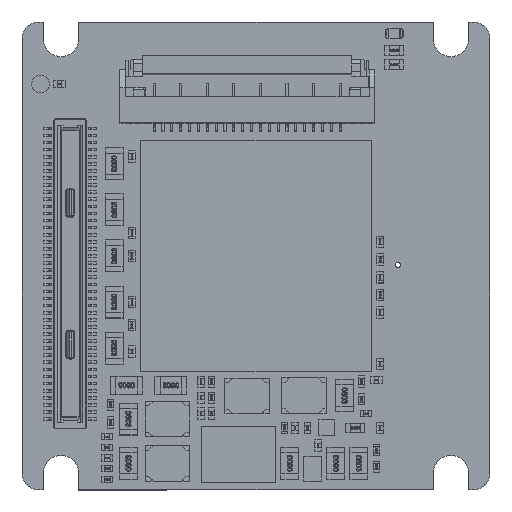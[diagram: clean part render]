
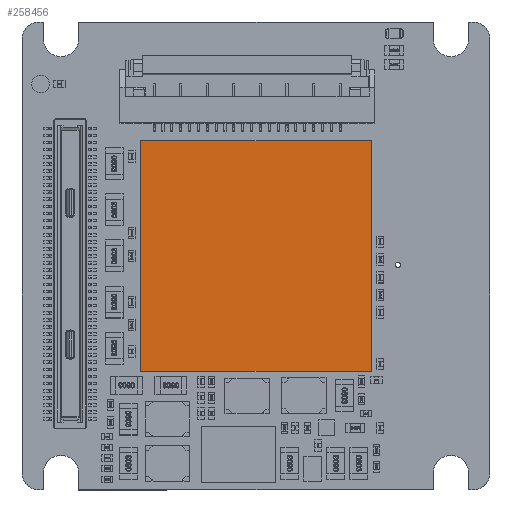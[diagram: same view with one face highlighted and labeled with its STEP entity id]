
A CAD part, top view. The second image highlights one B-rep face of the part: STEP entity #258456.
In plain terms, the highlighted planar face has unit normal (0, 0, 1).
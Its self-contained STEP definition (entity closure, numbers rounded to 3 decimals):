
#15020 = VECTOR ( 'NONE', #447345, 1000. ) ;
#17415 = ORIENTED_EDGE ( 'NONE', *, *, #482715, .F. ) ;
#30848 = LINE ( 'NONE', #337619, #83946 ) ;
#33694 = CARTESIAN_POINT ( 'NONE',  ( -6.5, -6.5, 6.172 ) ) ;
#52470 = CARTESIAN_POINT ( 'NONE',  ( 6.5, -6.5, 6.172 ) ) ;
#73066 = PLANE ( 'NONE',  #113791 ) ;
#79976 = EDGE_CURVE ( 'NONE', #237579, #127674, #396788, .T. ) ;
#83946 = VECTOR ( 'NONE', #490686, 1000. ) ;
#98268 = LINE ( 'NONE', #133552, #15020 ) ;
#105833 = EDGE_CURVE ( 'NONE', #127674, #288674, #30848, .T. ) ;
#108386 = CARTESIAN_POINT ( 'NONE',  ( 0., 0., 6.172 ) ) ;
#113791 = AXIS2_PLACEMENT_3D ( 'NONE', #108386, #424823, #455042 ) ;
#127674 = VERTEX_POINT ( 'NONE', #33694 ) ;
#133552 = CARTESIAN_POINT ( 'NONE',  ( -6.5, 6.5, 6.172 ) ) ;
#140174 = VECTOR ( 'NONE', #155732, 1000. ) ;
#155732 = DIRECTION ( 'NONE',  ( -1., 0., 0. ) ) ;
#191237 = VERTEX_POINT ( 'NONE', #271329 ) ;
#237579 = VERTEX_POINT ( 'NONE', #455095 ) ;
#258456 = ADVANCED_FACE ( 'NONE', ( #460017 ), #73066, .F. ) ;
#271329 = CARTESIAN_POINT ( 'NONE',  ( 6.5, 6.5, 6.172 ) ) ;
#288674 = VERTEX_POINT ( 'NONE', #362489 ) ;
#290578 = VECTOR ( 'NONE', #323769, 1000. ) ;
#323769 = DIRECTION ( 'NONE',  ( 0., -1., 0. ) ) ;
#337619 = CARTESIAN_POINT ( 'NONE',  ( -6.5, -6.5, 6.172 ) ) ;
#338297 = EDGE_LOOP ( 'NONE', ( #382910, #452663, #17415, #423283 ) ) ;
#362489 = CARTESIAN_POINT ( 'NONE',  ( -6.5, 6.5, 6.172 ) ) ;
#382910 = ORIENTED_EDGE ( 'NONE', *, *, #79976, .F. ) ;
#396578 = LINE ( 'NONE', #471902, #290578 ) ;
#396788 = LINE ( 'NONE', #52470, #140174 ) ;
#401924 = EDGE_CURVE ( 'NONE', #191237, #237579, #396578, .T. ) ;
#423283 = ORIENTED_EDGE ( 'NONE', *, *, #105833, .F. ) ;
#424823 = DIRECTION ( 'NONE',  ( 0., 0., -1. ) ) ;
#447345 = DIRECTION ( 'NONE',  ( 1., 0., 0. ) ) ;
#452663 = ORIENTED_EDGE ( 'NONE', *, *, #401924, .F. ) ;
#455042 = DIRECTION ( 'NONE',  ( 0., -1., 0. ) ) ;
#455095 = CARTESIAN_POINT ( 'NONE',  ( 6.5, -6.5, 6.172 ) ) ;
#460017 = FACE_OUTER_BOUND ( 'NONE', #338297, .T. ) ;
#471902 = CARTESIAN_POINT ( 'NONE',  ( 6.5, 6.5, 6.172 ) ) ;
#482715 = EDGE_CURVE ( 'NONE', #288674, #191237, #98268, .T. ) ;
#490686 = DIRECTION ( 'NONE',  ( 0., 1., 0. ) ) ;
